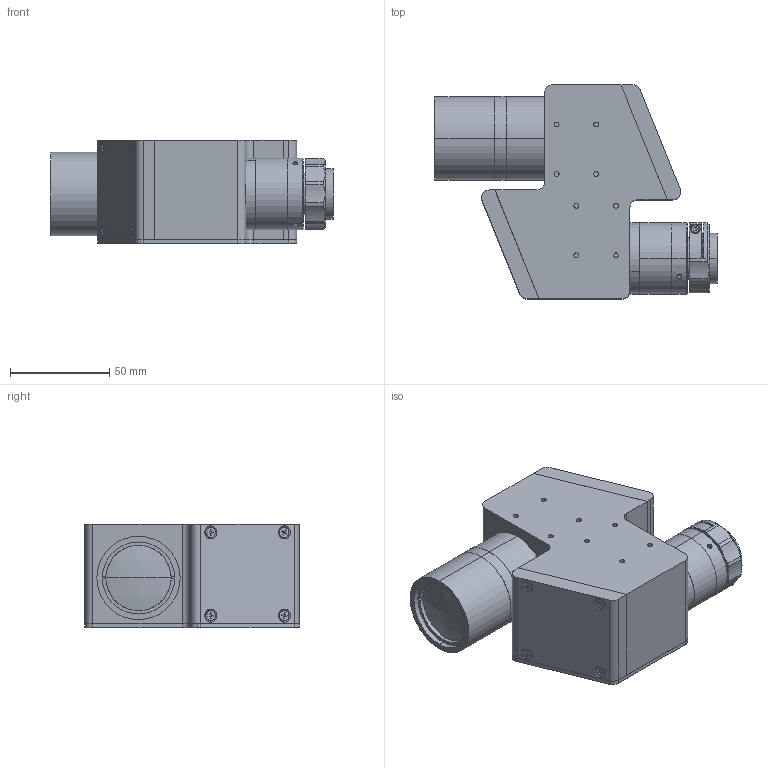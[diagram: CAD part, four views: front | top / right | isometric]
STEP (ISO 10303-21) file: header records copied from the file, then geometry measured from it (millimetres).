
FILE_DESCRIPTION (( 'STEP AP203' ), '1' );
FILE_NAME ('XF-MH1X218.STEP', '2020-08-24T07:15:48', ( 'canrill-02' ), ( '' ), 'SwSTEP 2.0', 'SolidWorks 2014', '' );
FILE_SCHEMA (( 'CONFIG_CONTROL_DESIGN' ));
Length unit declared in the file: millimetre
Products named in the file (1): XF-MH1X218
Bounding box: 142.38 x 108 x 52 mm (x, y, z)
Surface area: 52376.9 mm2 (no closed solid volume)
Topology: 0 solids, 31 shells, 424 faces, 1301 edges, 891 vertices
Faces by surface type: plane 219, cylinder 160, cone 41, sphere 2, torus 2
Entity records: 14834 total; most frequent: CARTESIAN_POINT 2936, DIRECTION 2576, ORIENTED_EDGE 2195, EDGE_CURVE 1299, VERTEX_POINT 891, AXIS2_PLACEMENT_3D 875, LINE 826, VECTOR 826
